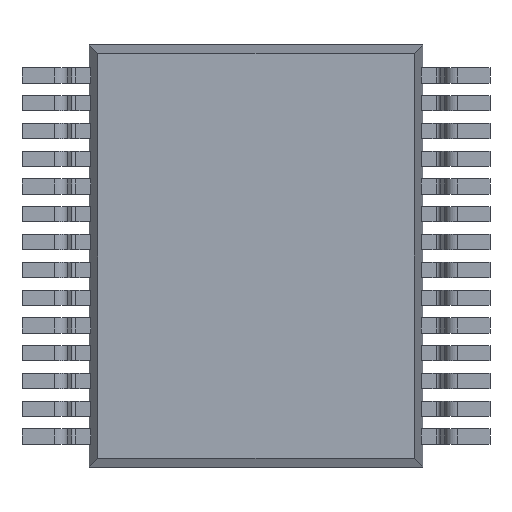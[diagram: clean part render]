
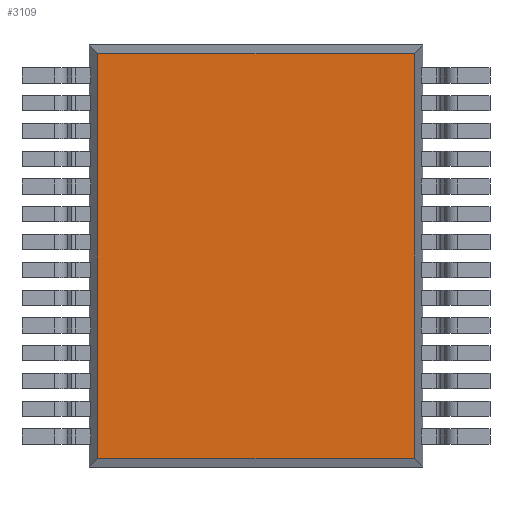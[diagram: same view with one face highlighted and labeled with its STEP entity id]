
A CAD part, front view. The second image highlights one B-rep face of the part: STEP entity #3109.
In plain terms, the highlighted planar face has unit normal (0, -1, 0).
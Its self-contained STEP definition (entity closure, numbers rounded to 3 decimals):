
#692 = EDGE_CURVE ( 'NONE', #1764, #1762, #3757, .T. ) ;
#748 = EDGE_CURVE ( 'NONE', #1773, #1769, #4382, .T. ) ;
#1317 = EDGE_LOOP ( 'NONE', ( #2758, #2759, #2760, #2761 ) ) ;
#1762 = VERTEX_POINT ( 'NONE', #4885 ) ;
#1764 = VERTEX_POINT ( 'NONE', #4887 ) ;
#1769 = VERTEX_POINT ( 'NONE', #4892 ) ;
#1773 = VERTEX_POINT ( 'NONE', #4896 ) ;
#2758 = ORIENTED_EDGE ( 'NONE', *, *, #692, .T. ) ;
#2759 = ORIENTED_EDGE ( 'NONE', *, *, #15016, .T. ) ;
#2760 = ORIENTED_EDGE ( 'NONE', *, *, #748, .T. ) ;
#2761 = ORIENTED_EDGE ( 'NONE', *, *, #15017, .T. ) ;
#3109 = ADVANCED_FACE ( 'NONE', ( #6598 ), #6412, .F. ) ;
#3757 = LINE ( 'NONE', #4208, #3761 ) ;
#3761 = VECTOR ( 'NONE', #4204, 1000. ) ;
#4204 = DIRECTION ( 'NONE',  ( 0., 0., -1. ) ) ;
#4208 = CARTESIAN_POINT ( 'NONE',  ( -3.613, 0.2, 4.825 ) ) ;
#4382 = LINE ( 'NONE', #4714, #4385 ) ;
#4385 = VECTOR ( 'NONE', #4715, 1000. ) ;
#4714 = CARTESIAN_POINT ( 'NONE',  ( 3.613, 0.2, 4.825 ) ) ;
#4715 = DIRECTION ( 'NONE',  ( 0., 0., 1. ) ) ;
#4885 = CARTESIAN_POINT ( 'NONE',  ( -3.613, 0.2, -4.628 ) ) ;
#4887 = CARTESIAN_POINT ( 'NONE',  ( -3.613, 0.2, 4.628 ) ) ;
#4892 = CARTESIAN_POINT ( 'NONE',  ( 3.613, 0.2, 4.628 ) ) ;
#4896 = CARTESIAN_POINT ( 'NONE',  ( 3.613, 0.2, -4.628 ) ) ;
#6412 = PLANE ( 'NONE',  #16154 ) ;
#6413 = CARTESIAN_POINT ( 'NONE',  ( 0., 0.2, 0. ) ) ;
#6418 = DIRECTION ( 'NONE',  ( 0., 1., 0. ) ) ;
#6419 = DIRECTION ( 'NONE',  ( 0., 0., 1. ) ) ;
#6598 = FACE_OUTER_BOUND ( 'NONE', #1317, .T. ) ;
#11346 = LINE ( 'NONE', #12334, #11349 ) ;
#11348 = LINE ( 'NONE', #12336, #11351 ) ;
#11349 = VECTOR ( 'NONE', #12335, 1000. ) ;
#11351 = VECTOR ( 'NONE', #12337, 1000. ) ;
#12334 = CARTESIAN_POINT ( 'NONE',  ( 3.81, 0.2, -4.628 ) ) ;
#12335 = DIRECTION ( 'NONE',  ( 1., 0., 0. ) ) ;
#12336 = CARTESIAN_POINT ( 'NONE',  ( 3.81, 0.2, 4.628 ) ) ;
#12337 = DIRECTION ( 'NONE',  ( -1., 0., 0. ) ) ;
#15016 = EDGE_CURVE ( 'NONE', #1762, #1773, #11346, .T. ) ;
#15017 = EDGE_CURVE ( 'NONE', #1769, #1764, #11348, .T. ) ;
#16154 = AXIS2_PLACEMENT_3D ( 'NONE', #6413, #6418, #6419 ) ;
